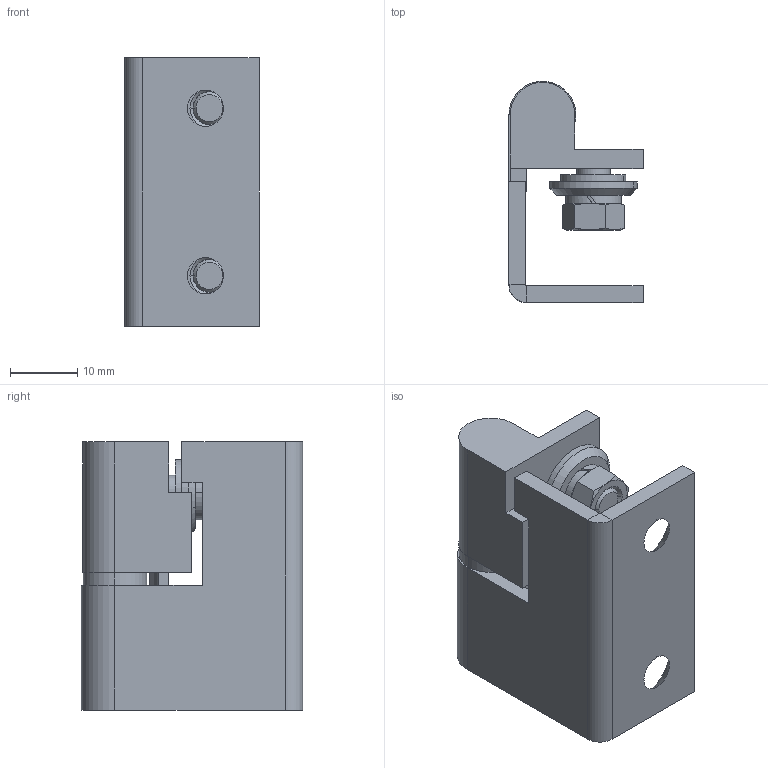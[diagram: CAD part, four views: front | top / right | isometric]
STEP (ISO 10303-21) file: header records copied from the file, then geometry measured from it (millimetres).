
FILE_DESCRIPTION (( 'STEP AP214' ), '1' );
FILE_NAME ('3.ZN140.001.STEP', '2010-02-09T16:45:13', ( '£ukaszC' ), ( '' ), 'SwSTEP 2.0', 'SolidWorks 2008', '' );
FILE_SCHEMA (( 'AUTOMOTIVE_DESIGN' ));
Length unit declared in the file: millimetre
Products named in the file (9): Podk³adka sprê¿ysta PN-78-N82008_Domyœlna; M5  DIN 934_Domyœlna; 3.ZN140.001; 3B.ZN140.01.01.00-PRAWY_Domyœlna; 3B.ZN140.01.02.01_Domyœlna; 3B.ZN140.01.01.01_Domyœlna; 3B.ZN140.01.03.00 PRAWY_Domyœlna; 3B.ZN140.03.00.02_Domyœlna; 3B.ZN140.03.00.01_Domyœlna
Assembly tree (12 placements, depth 2):
  3.ZN140.001
    Podk³adka sprê¿ysta PN-78-N82008_Domyœlna  x2
    3B.ZN140.03.00.02_Domyœlna  x2
    M5  DIN 934_Domyœlna  x2
    3B.ZN140.03.00.01_Domyœlna
    3B.ZN140.01.02.01_Domyœlna  x2
    3B.ZN140.01.01.01_Domyœlna
    3B.ZN140.01.03.00 PRAWY_Domyœlna
    3B.ZN140.01.01.00-PRAWY_Domyœlna
Bounding box: 20 x 33 x 40 mm (x, y, z)
Volume: 9902.8 mm3; surface area: 9638.8 mm2
Topology: 12 solids, 12 shells, 255 faces, 573 edges, 370 vertices
Faces by surface type: plane 169, cylinder 50, cone 36
Entity records: 6217 total; most frequent: CARTESIAN_POINT 1100, DIRECTION 1039, ORIENTED_EDGE 938, EDGE_CURVE 469, AXIS2_PLACEMENT_3D 367, VECTOR 305, LINE 305, VERTEX_POINT 304
